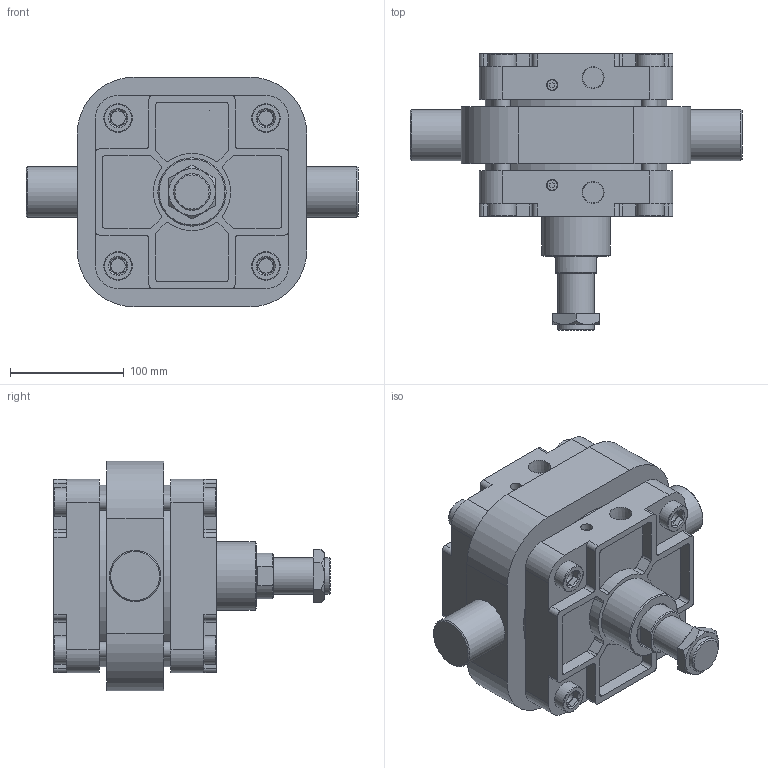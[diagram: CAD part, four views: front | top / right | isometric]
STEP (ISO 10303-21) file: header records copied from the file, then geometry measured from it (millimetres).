
FILE_DESCRIPTION(/* description */ ('Unknown'),/* implementation_level */ '2;1');
FILE_NAME(/* name */ 'WA150-0-TC',/* time_stamp */ '2026-07-17T17:00:55+08:00',/* author */ ('Unknown'),/* organization */ ('Unknown'),/* preprocessor_version */ 'ST-DEVELOPER v16.7',/* originating_system */ 'DEX',/* authorisation */ $);
FILE_SCHEMA (('CONFIG_CONTROL_DESIGN'));
Length unit declared in the file: millimetre
Products named in the file (8): WA150-0-TC; WA150_前1; WA150_後; WA150_鋁; WA150_､ﾟｶbｬ｡; WA150_TC; WA150_TｴU､Ⅴ; M32-2.0P-10_螺
Assembly tree (10 placements, depth 2):
  WA150-0-TC
    WA150_前1
    WA150_後
    WA150_鋁
    WA150_､ﾟｶbｬ｡
    WA150_TC
    WA150_TｴU､Ⅴ  x4
    M32-2.0P-10_螺
Bounding box: 292 x 243 x 202 mm (x, y, z)
Volume: 4333151.9 mm3; surface area: 526350.2 mm2
Topology: 10 solids, 10 shells, 410 faces, 1000 edges, 665 vertices
Faces by surface type: plane 227, cylinder 150, cone 25, torus 8
Full cylindrical faces by diameter (mm): 9 x2, 10 x2, 12.5 x12, 14 x4, 20 x16, 25 x8, 30 x1, 32 x1, 40 x2, 41 x1, 45 x2, 60 x1, 149.5 x1, 150 x3, 160 x1, 161 x1
Entity records: 11436 total; most frequent: CARTESIAN_POINT 1688, DIRECTION 1628, ORIENTED_EDGE 1446, EDGE_CURVE 723, AXIS2_PLACEMENT_3D 611, VERTEX_POINT 507, EDGE_LOOP 424, FACE_BOUND 424
